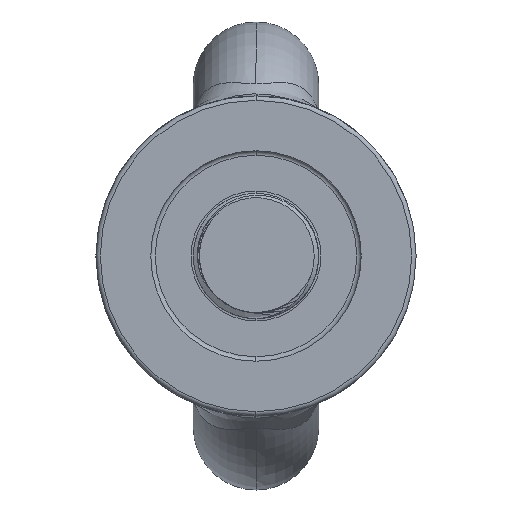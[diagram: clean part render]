
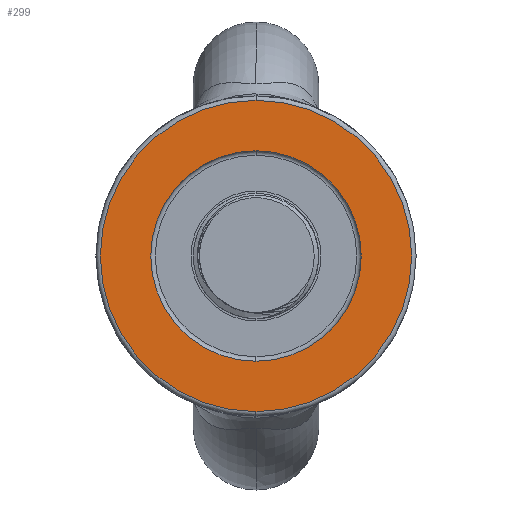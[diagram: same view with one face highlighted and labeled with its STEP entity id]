
A CAD part, left-side view. The second image highlights one B-rep face of the part: STEP entity #299.
In plain terms, the highlighted planar face has unit normal (-1, 0, 0).
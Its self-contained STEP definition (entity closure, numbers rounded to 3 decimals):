
#247 = EDGE_LOOP ( 'NONE', ( #8877, #8873 ) ) ;
#264 = EDGE_LOOP ( 'NONE', ( #8889, #8891 ) ) ;
#299 = ADVANCED_FACE ( 'NONE', ( #893, #885 ), #9021, .F. ) ;
#457 = EDGE_CURVE ( 'NONE', #756, #754, #2239, .T. ) ;
#458 = EDGE_CURVE ( 'NONE', #751, #750, #2236, .T. ) ;
#624 = EDGE_CURVE ( 'NONE', #754, #756, #2306, .T. ) ;
#625 = EDGE_CURVE ( 'NONE', #750, #751, #2307, .T. ) ;
#661 = AXIS2_PLACEMENT_3D ( 'NONE', #8912, #9234, #9226 ) ;
#750 = VERTEX_POINT ( 'NONE', #15262 ) ;
#751 = VERTEX_POINT ( 'NONE', #15249 ) ;
#754 = VERTEX_POINT ( 'NONE', #15265 ) ;
#756 = VERTEX_POINT ( 'NONE', #15267 ) ;
#885 = FACE_OUTER_BOUND ( 'NONE', #264, .T. ) ;
#893 = FACE_BOUND ( 'NONE', #247, .T. ) ;
#2236 = CIRCLE ( 'NONE', #11033, 47. ) ;
#2239 = CIRCLE ( 'NONE', #11032, 69.5 ) ;
#2306 = CIRCLE ( 'NONE', #15374, 69.5 ) ;
#2307 = CIRCLE ( 'NONE', #15375, 47. ) ;
#8873 = ORIENTED_EDGE ( 'NONE', *, *, #625, .F. ) ;
#8877 = ORIENTED_EDGE ( 'NONE', *, *, #458, .F. ) ;
#8889 = ORIENTED_EDGE ( 'NONE', *, *, #624, .T. ) ;
#8891 = ORIENTED_EDGE ( 'NONE', *, *, #457, .T. ) ;
#8912 = CARTESIAN_POINT ( 'NONE',  ( 0., 0., -69.5 ) ) ;
#9021 = PLANE ( 'NONE',  #661 ) ;
#9226 = DIRECTION ( 'NONE',  ( 0., 0., -1. ) ) ;
#9234 = DIRECTION ( 'NONE',  ( 1., 0., 0. ) ) ;
#11032 = AXIS2_PLACEMENT_3D ( 'NONE', #13899, #13900, #13901 ) ;
#11033 = AXIS2_PLACEMENT_3D ( 'NONE', #13902, #13903, #13904 ) ;
#13899 = CARTESIAN_POINT ( 'NONE',  ( 0., 0., 0. ) ) ;
#13900 = DIRECTION ( 'NONE',  ( -1., 0., 0. ) ) ;
#13901 = DIRECTION ( 'NONE',  ( 0., 0., 1. ) ) ;
#13902 = CARTESIAN_POINT ( 'NONE',  ( 0., 0., 0. ) ) ;
#13903 = DIRECTION ( 'NONE',  ( -1., 0., 0. ) ) ;
#13904 = DIRECTION ( 'NONE',  ( 0., 0., 1. ) ) ;
#14962 = CARTESIAN_POINT ( 'NONE',  ( 0., 0., 0. ) ) ;
#14963 = DIRECTION ( 'NONE',  ( -1., 0., 0. ) ) ;
#14964 = DIRECTION ( 'NONE',  ( 0., 0., 1. ) ) ;
#14966 = CARTESIAN_POINT ( 'NONE',  ( 0., 0., 0. ) ) ;
#14967 = DIRECTION ( 'NONE',  ( -1., 0., 0. ) ) ;
#14968 = DIRECTION ( 'NONE',  ( 0., 0., 1. ) ) ;
#15249 = CARTESIAN_POINT ( 'NONE',  ( 0., 0., 47. ) ) ;
#15262 = CARTESIAN_POINT ( 'NONE',  ( 0., 0., -47. ) ) ;
#15265 = CARTESIAN_POINT ( 'NONE',  ( 0., 0., 69.5 ) ) ;
#15267 = CARTESIAN_POINT ( 'NONE',  ( 0., 0., -69.5 ) ) ;
#15374 = AXIS2_PLACEMENT_3D ( 'NONE', #14962, #14963, #14964 ) ;
#15375 = AXIS2_PLACEMENT_3D ( 'NONE', #14966, #14967, #14968 ) ;
